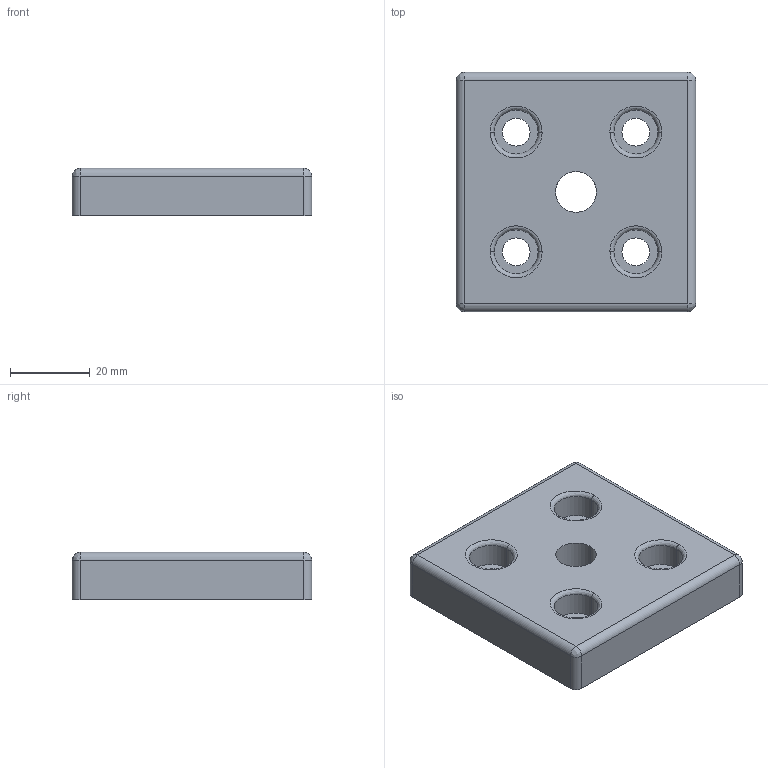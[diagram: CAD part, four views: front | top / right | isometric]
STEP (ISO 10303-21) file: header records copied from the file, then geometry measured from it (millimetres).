
FILE_DESCRIPTION (( 'STEP AP203' ), '1' );
FILE_NAME ('0106FP6060M12.STEP', '2024-03-15T10:27:20', ( 'Windows-Benutzer' ), ( '' ), 'SwSTEP 2.0', 'SolidWorks 2023', '' );
FILE_SCHEMA (( 'CONFIG_CONTROL_DESIGN' ));
Length unit declared in the file: millimetre
Products named in the file (1): 0106FP6060M12
Bounding box: 60 x 60 x 12 mm (x, y, z)
Volume: 27125.2 mm3; surface area: 15777.6 mm2
Topology: 1 solids, 1 shells, 125 faces, 329 edges, 210 vertices
Faces by surface type: cylinder 79, plane 34, bspline 12
Entity records: 4114 total; most frequent: CARTESIAN_POINT 865, DIRECTION 711, ORIENTED_EDGE 650, EDGE_CURVE 325, AXIS2_PLACEMENT_3D 280, VERTEX_POINT 210, CIRCLE 166, LINE 151
